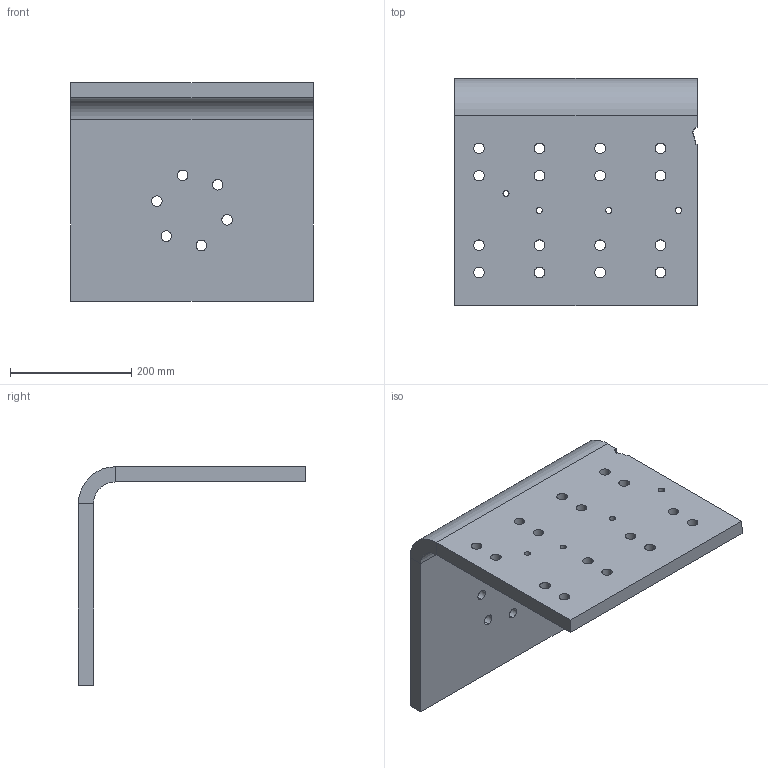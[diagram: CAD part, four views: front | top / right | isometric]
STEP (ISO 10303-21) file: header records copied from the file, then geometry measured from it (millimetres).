
FILE_DESCRIPTION (( 'STEP AP203' ), '1' );
FILE_NAME ('ASU.01.02.009.0001_Step.STEP', '2024-11-19T18:10:13', ( '' ), ( '' ), 'SwSTEP 2.0', 'SolidWorks 2024', '' );
FILE_SCHEMA (( 'CONFIG_CONTROL_DESIGN' ));
Length unit declared in the file: millimetre
Products named in the file (1): ASU.01.02.009.0001_Step
Bounding box: 400.55 x 375.33 x 361 mm (x, y, z)
Volume: 6771048.3 mm3; surface area: 630063.6 mm2
Topology: 1 solids, 1 shells, 82 faces, 232 edges, 152 vertices
Faces by surface type: cylinder 54, plane 28
Entity records: 2881 total; most frequent: DIRECTION 506, CARTESIAN_POINT 467, ORIENTED_EDGE 464, EDGE_CURVE 232, AXIS2_PLACEMENT_3D 191, VERTEX_POINT 152, EDGE_LOOP 134, VECTOR 124
